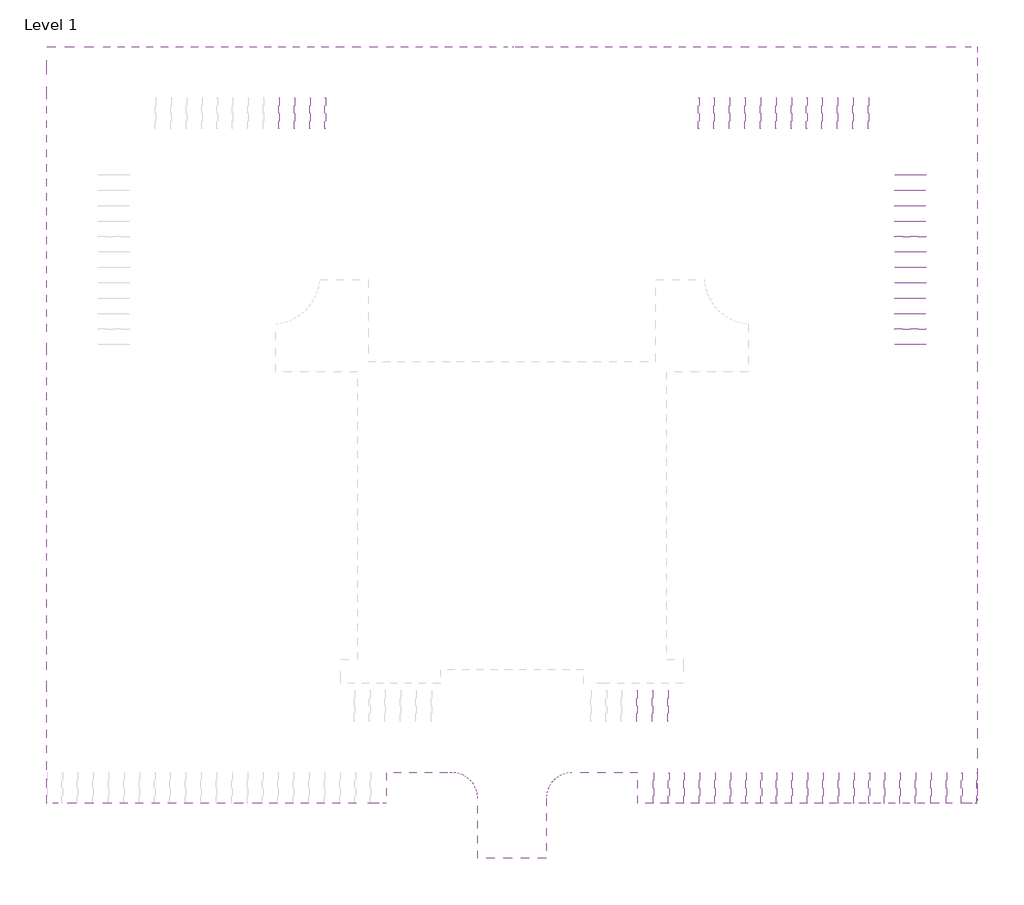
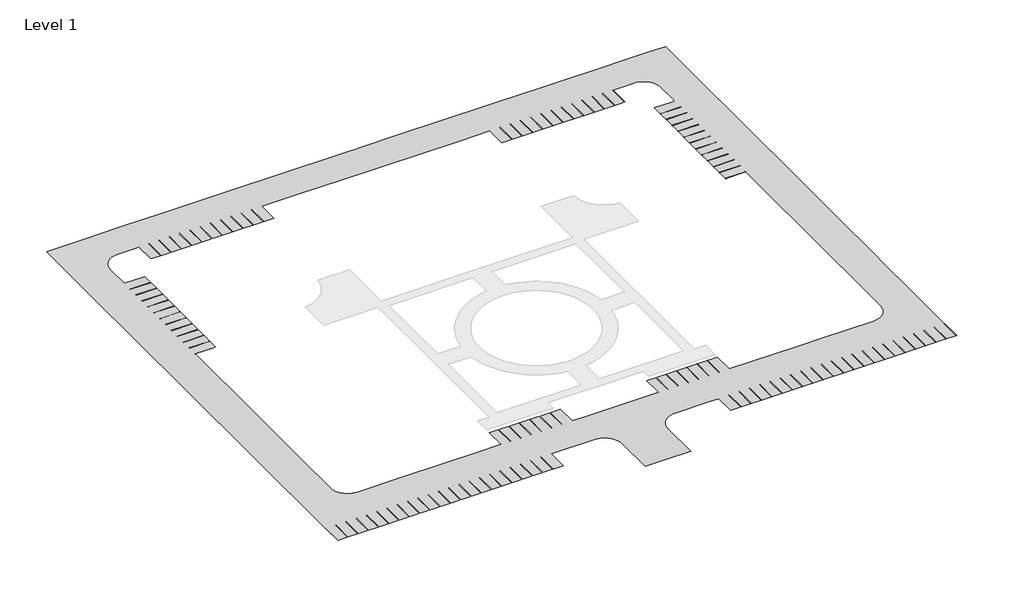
# One storey, part 2 of 2: 54 proxies.
"""IFC4 building model written with IfcOpenShell, lengths in millimetres."""

import ifcopenshell
import ifcopenshell.guid

model = None  # the IFC model being written
_history = None  # IfcOwnerHistory: only IFC2X3 demands one
_inside = {}  # id of a spatial element -> (the spatial element, [elements in it])
_under = {}  # id of a project, library or spatial element -> (it, [spatial elements below it])
_declared = {}  # id of a project -> (the project, [libraries it declares])
_typed = {}  # id of a type object -> (the type object, [elements of that type])
_made_of = {}  # id of a material, layer set ... -> (it, [elements and type objects made of it])


def new_model(schema):
    """Start an empty IFC model of exactly this schema.

    Asked for "IFC4X3", IfcOpenShell would pick the latest addendum, in which some entities
    have other attributes; the version numbers below select the first issue.
    IFC2X3 requires an IfcOwnerHistory on every rooted entity: one is made here for all.
    """
    global model, _history
    if schema == "IFC4X3":
        model = ifcopenshell.file(schema_version=(4, 3, 0, 0))
    else:
        model = ifcopenshell.file(schema=schema)
    _inside.clear()
    _under.clear()
    _declared.clear()
    _typed.clear()
    _made_of.clear()
    _history = None
    if model.schema == "IFC2X3":
        org = make("IfcOrganization", Name="unknown")
        user = make(
            "IfcPersonAndOrganization",
            ThePerson=make("IfcPerson", FamilyName="unknown"),
            TheOrganization=org,
        )
        app = make(
            "IfcApplication",
            ApplicationDeveloper=org,
            Version="unknown",
            ApplicationFullName="unknown",
            ApplicationIdentifier="unknown",
        )
        _history = make(
            "IfcOwnerHistory",
            OwningUser=user,
            OwningApplication=app,
            ChangeAction="ADDED",
            CreationDate=0,
        )
    return model


def make(cls, **values):
    """One entity of the class cls with the attributes given. An attribute that is None is left unset."""
    return model.create_entity(
        cls, **{name: value for name, value in values.items() if value is not None}
    )


def rooted(cls, **values):
    """An entity with a GlobalId (a new one), such as an element, a storey or a relation."""
    return make(cls, GlobalId=ifcopenshell.guid.new(), OwnerHistory=_history, **values)


def si_unit(unit_type, name, prefix=None):
    """IfcSIUnit, for example si_unit("LENGTHUNIT", "METRE", prefix="MILLI")."""
    return make("IfcSIUnit", UnitType=unit_type, Prefix=prefix, Name=name)


def assignment(units):
    """IfcUnitAssignment: the units of a project."""
    return None if units is None else make("IfcUnitAssignment", Units=units)


def point(xyz):
    """IfcCartesianPoint."""
    return None if xyz is None else make("IfcCartesianPoint", Coordinates=xyz)


def direction(xyz):
    """IfcDirection."""
    return None if xyz is None else make("IfcDirection", DirectionRatios=xyz)


def frame(location, z_axis=None, x_axis=None):
    """IfcAxis2Placement3D, a coordinate frame: its origin and axes. An axis left out is left unset."""
    return make(
        "IfcAxis2Placement3D",
        Location=point(location),
        Axis=direction(z_axis),
        RefDirection=direction(x_axis),
    )


def origin():
    """The frame at (0, 0, 0) with its axes left unset."""
    return frame((0.0, 0.0, 0.0))


def origin_with_axes():
    """The frame at (0, 0, 0) with the z axis (0, 0, 1) and the x axis (1, 0, 0) written out."""
    return frame((0.0, 0.0, 0.0), z_axis=(0.0, 0.0, 1.0), x_axis=(1.0, 0.0, 0.0))


def place(relative_to, where):
    """IfcLocalPlacement: puts the frame where relative to a parent placement (None: the world)."""
    return make(
        "IfcLocalPlacement", PlacementRelTo=relative_to, RelativePlacement=where
    )


def context(
    kind, dimensions, precision=None, world=None, true_north=None, identifier=None
):
    """IfcGeometricRepresentationContext, for example the 3D "Model" context."""
    return make(
        "IfcGeometricRepresentationContext",
        ContextIdentifier=identifier,
        ContextType=kind,
        CoordinateSpaceDimension=dimensions,
        Precision=precision,
        WorldCoordinateSystem=world,
        TrueNorth=true_north,
    )


def project(units=None, contexts=None):
    """IfcProject with its units and contexts."""
    return rooted(
        "IfcProject",
        Name="project",
        RepresentationContexts=contexts,
        UnitsInContext=assignment(units),
    )


def spatial(cls, under=None, at=None, **own):
    """A site, building, storey or space (cls), placed at a placement, below another one or the project."""
    s = rooted(cls, ObjectPlacement=at, **own)
    if under is not None:
        _under.setdefault(under.id(), (under, []))[1].append(s)
    return s


def polyline(points):
    """IfcPolyline through the points."""
    return make("IfcPolyline", Points=[point(p) for p in points])


def point_list(points):
    """IfcCartesianPointList2D or 3D."""
    cls = (
        "IfcCartesianPointList2D" if len(points[0]) == 2 else "IfcCartesianPointList3D"
    )
    return make(cls, CoordList=points)


def outline(outer, holes=None, kind="AREA"):
    """IfcArbitraryClosedProfileDef: a profile drawn as a closed curve; with holes, ...WithVoids."""
    if holes is None:
        return make("IfcArbitraryClosedProfileDef", ProfileType=kind, OuterCurve=outer)
    return make(
        "IfcArbitraryProfileDefWithVoids",
        ProfileType=kind,
        OuterCurve=outer,
        InnerCurves=holes,
    )


def extrude(swept, where, along, depth):
    """IfcExtrudedAreaSolid: the profile swept, set in the frame where, extruded along a direction by depth."""
    return make(
        "IfcExtrudedAreaSolid",
        SweptArea=swept,
        Position=where,
        ExtrudedDirection=direction(along),
        Depth=depth,
    )


def triangles(points, corners, closed=None, point_numbers=None):
    """IfcTriangulatedFaceSet: each triangle names its three corners, points numbered from 1."""
    return make(
        "IfcTriangulatedFaceSet",
        Coordinates=point_list(points),
        Closed=closed,
        CoordIndex=corners,
        PnIndex=point_numbers,
    )


def shape(context_of_items, identifier, shape_type, items):
    """IfcShapeRepresentation: the items that make up one representation, for example the "Body"."""
    return make(
        "IfcShapeRepresentation",
        ContextOfItems=context_of_items,
        RepresentationIdentifier=identifier,
        RepresentationType=shape_type,
        Items=items,
    )


def source(mapping_origin, context_of_items, identifier, shape_type, items):
    """IfcRepresentationMap: a shape defined once, which mapped items show again and again."""
    return make(
        "IfcRepresentationMap",
        MappingOrigin=mapping_origin,
        MappedRepresentation=shape(context_of_items, identifier, shape_type, items),
    )


def transform(
    local_origin,
    x_axis=None,
    y_axis=None,
    z_axis=None,
    scale=None,
    scale2=None,
    scale3=None,
    uniform=True,
):
    """IfcCartesianTransformationOperator3D, or its non-uniform kind. x_axis, y_axis, z_axis: its Axis1, 2, 3."""
    if uniform:
        return make(
            "IfcCartesianTransformationOperator3D",
            Axis1=direction(x_axis),
            Axis2=direction(y_axis),
            LocalOrigin=point(local_origin),
            Scale=scale,
            Axis3=direction(z_axis),
        )
    return make(
        "IfcCartesianTransformationOperator3DnonUniform",
        Axis1=direction(x_axis),
        Axis2=direction(y_axis),
        LocalOrigin=point(local_origin),
        Scale=scale,
        Axis3=direction(z_axis),
        Scale2=scale2,
        Scale3=scale3,
    )


def mapped(mapping_source, mapping_target):
    """IfcMappedItem: shows the shape of a source again, moved by a transform."""
    return make(
        "IfcMappedItem", MappingSource=mapping_source, MappingTarget=mapping_target
    )


def made_of(thing, what):
    """Note that an element or type object is made of a material, layer set ...; save() writes the relation."""
    if what is not None:
        _made_of.setdefault(what.id(), (what, []))[1].append(thing)
    return thing


def element(
    cls,
    number,
    at=None,
    inside=None,
    cuts=None,
    type_object=None,
    material=None,
    context=None,
    identifier="Body",
    shape_type=None,
    held_by="IfcProductDefinitionShape",
    body=None,
    shapes=None,
    **own,
):
    """One element of the class cls, such as IfcWall. Its Tag is "e" and its number.

    at: its placement. inside: the storey or other place that contains it. cuts: it is an
    opening in that element (IfcRelVoidsElement). A single representation is given by context,
    identifier, shape_type and body (its items); several are given by shapes. held_by: the class
    of the entity that holds the representations. save() writes the other relations.
    """
    e = rooted(cls, Tag="e%d" % number, ObjectPlacement=at, **own)
    if body is not None:
        shapes = [shape(context, identifier, shape_type, body)]
    if shapes is not None:
        e.Representation = make(held_by, Representations=shapes)
    if inside is not None:
        _inside.setdefault(inside.id(), (inside, []))[1].append(e)
    if cuts is not None:
        rooted(
            "IfcRelVoidsElement", RelatingBuildingElement=cuts, RelatedOpeningElement=e
        )
    if type_object is not None:
        _typed.setdefault(type_object.id(), (type_object, []))[1].append(e)
    return made_of(e, material)


def aggregate(whole, parts):
    """IfcRelAggregates: a whole, such as a stair, and the parts it consists of."""
    return rooted("IfcRelAggregates", RelatingObject=whole, RelatedObjects=parts)


def save(model, path):
    """Write the relations noted so far, then the file.

    IfcRelAggregates (storeys below a building ...), IfcRelContainedInSpatialStructure (elements
    in a storey), IfcRelDefinesByType, IfcRelAssociatesMaterial and IfcRelDeclares: one each for
    every whole, place, type object, material and project.
    """
    for whole, parts in _under.values():
        aggregate(whole, parts)
    for where, things in _inside.values():
        rooted(
            "IfcRelContainedInSpatialStructure",
            RelatedElements=things,
            RelatingStructure=where,
        )
    for kind, things in _typed.values():
        rooted("IfcRelDefinesByType", RelatedObjects=things, RelatingType=kind)
    for what, things in _made_of.values():
        rooted("IfcRelAssociatesMaterial", RelatedObjects=things, RelatingMaterial=what)
    for by, libraries in _declared.values():
        rooted("IfcRelDeclares", RelatingContext=by, RelatedDefinitions=libraries)
    model.write(path)


def parking_space_9_x_18_90_deg_b8b21359(model_context):
    return source(origin(), model_context, "Body", "SweptSolid", [
        extrude(outline(polyline([(-50.8, 0.0), (50.8, 0.0), (50.8, -5486.4), (-50.8, -5486.4), (-50.8, 0.0)])), origin_with_axes(), (0.0, 0.0, 1.0), 3.175),
    ])


def parking_space_9_x_18_90_deg_9fe051ab(model_context):
    return source(origin(), model_context, "Body", "SweptSolid", [
        extrude(outline(polyline([(-50.8, 0.0), (-50.8, 5486.4), (50.8, 5486.4), (50.8, 0.0), (-50.8, 0.0)])), origin_with_axes(), (0.0, 0.0, 1.0), 3.175),
    ])


model = new_model("IFC4")

# Units and contexts
model_context = context("Model", 3, world=origin())
ifc_project = project(units=[si_unit("LENGTHUNIT", "METRE", prefix="MILLI")], contexts=[model_context])

# Site, building, storey
site = spatial("IfcSite", under=ifc_project)
building = spatial("IfcBuilding", under=site)
storey = spatial("IfcBuildingStorey", under=building, Name="Level 1", Elevation=0.0)

# Proxies
placement = place(None, origin())
element("IfcBuildingElementProxy", 1, Name="Building Element Proxy", at=placement, inside=storey, context=model_context, shape_type="Tessellation", body=[
    triangles([(-91565.4156006, -131797.3412842, 3048.0), (-91565.4156006, -142465.3412842, 3048.0), (-85469.4156006, -142465.3412842, 3048.0), (-79373.4156006, -142465.3412842, 3048.0), (-79373.4156006, -131797.3412842, 3048.0), (-79326.8789062, -131146.6833252, 3048.0), (-79188.2176025, -130509.2617676, 3048.0), (-78960.2501221, -129898.0618652, 3048.0), (-78647.6273438, -129325.5293701, 3048.0), (-78256.7023682, -128803.3193848, 3048.0), (-77795.4375, -128342.0545166, 3048.0), (-77273.2275146, -127951.129541, 3048.0), (-76700.6950195, -127638.5067627, 3048.0), (-76089.4951172, -127410.5392822, 3048.0), (-75452.0782104, -127271.8779785, 3048.0), (-74801.4156006, -127225.3412842, 3048.0), (-65737.3967651, -127225.3412842, 3048.0), (-63066.6156006, -127225.3412842, 3048.0), (-63066.6156006, -132711.7412842, 3048.0), (-49700.7337646, -132711.7412842, 3048.0), (-46095.4654541, -132711.7412842, 3048.0), (-25122.6386353, -132711.7412842, 3048.0), (-22487.2901917, -132711.7412842, 3048.0), (-9475.8297455, -132711.7412842, 3048.0), (-7128.3945419, -132711.7412842, 3048.0), (-3627.2861526, -132711.7412842, 3048.0), (-2716.2156006, -132711.7412842, 3048.0), (-2716.2156006, -131800.6713135, 3048.0), (-2716.2156006, -126435.2592773, 3048.0), (-2716.2156006, -119294.9323242, 3048.0), (-2716.2156006, -110282.3754639, 3048.0), (-2716.2156006, -99848.9937012, 3048.0), (-2716.2156006, -93648.8326172, 3048.0), (-2716.2156006, -78679.5509766, 3048.0), (-2716.2156006, -57640.1561279, 3048.0), (-2716.2156006, -54081.5454346, 3048.0), (-2716.2156006, -39230.4751831, 3048.0), (-2716.2156006, -36324.047937, 3048.0), (-2716.2156006, -25463.0759949, 3048.0), (-2716.2156006, -19932.808905, 3048.0), (-2716.2156006, -10713.0914337, 3048.0), (-2716.2156006, -5698.3579926, 3048.0), (-2716.2156006, -6.8326078, 3048.0), (-2716.2156006, 2009.8571171, 3048.0), (-4876.9546417, 2009.8571171, 3048.0), (-8244.3299149, 2009.8571171, 3048.0), (-15439.1645874, 2009.8571171, 3048.0), (-18502.3066864, 2009.8571171, 3048.0), (-32722.1166321, 2009.8571171, 3048.0), (-35482.0690979, 2009.8571171, 3048.0), (-47895.234668, 2009.8571171, 3048.0), (-50617.2778198, 2009.8571171, 3048.0), (-74135.7353027, 2009.8571171, 3048.0), (-84851.657959, 2009.8571171, 3048.0), (-85469.4156006, 2009.8571171, 3048.0), (-86925.494165, 2009.8571171, 3048.0), (-107854.532959, 2009.8571171, 3048.0), (-116835.2592041, 2009.8571171, 3048.0), (-137219.4568359, 2009.8571171, 3048.0), (-147975.5258789, 2009.8571171, 3048.0), (-158167.5177246, 2009.8571171, 3048.0), (-165023.8620117, 2009.8571171, 3048.0), (-168222.6249023, 2009.8571171, 3048.0), (-168222.6249023, -2878.799572, 3048.0), (-168222.6249023, -7335.4644608, 3048.0), (-168222.6249023, -9881.2910431, 3048.0), (-168222.6249023, -48677.8473633, 3048.0), (-168222.6249023, -52893.4737671, 3048.0), (-168222.6249023, -68873.2053589, 3048.0), (-168222.6249023, -87023.6556152, 3048.0), (-168222.6249023, -89478.501123, 3048.0), (-168222.6249023, -108944.6152588, 3048.0), (-168222.6249023, -112839.3542725, 3048.0), (-168222.6249023, -123715.5183105, 3048.0), (-168222.6249023, -129803.4071777, 3048.0), (-168222.6249023, -132711.7412842, 3048.0), (-166169.6711426, -132711.7412842, 3048.0), (-156686.287207, -132711.7412842, 3048.0), (-151031.4230713, -132711.7412842, 3048.0), (-136471.2234375, -132711.7412842, 3048.0), (-130021.8217529, -132711.7412842, 3048.0), (-113205.545874, -132711.7412842, 3048.0), (-109055.1945557, -132711.7412842, 3048.0), (-107872.2156006, -132711.7412842, 3048.0), (-107872.2156006, -127225.3412842, 3048.0), (-96917.0331299, -127225.3412842, 3048.0), (-96137.4156006, -127225.3412842, 3048.0), (-95486.7483398, -127271.8779785, 3048.0), (-94849.336084, -127410.5392822, 3048.0), (-94238.1361816, -127638.5067627, 3048.0), (-94085.0943604, -127722.0737549, 3048.0), (-93665.6036865, -127951.129541, 3048.0), (-93143.3937012, -128342.0545166, 3048.0), (-92682.128833, -128803.3193848, 3048.0), (-92291.2038574, -129325.5293701, 3048.0), (-91978.5810791, -129898.0618652, 3048.0), (-91750.6135986, -130509.2617676, 3048.0), (-91611.9522949, -131146.6833252, 3048.0), (-115949.4156006, -7134.1430283, 3048.0), (-107080.6546143, -7134.1430283, 3048.0), (-87430.1331299, -7134.1430283, 3048.0), (-83499.2288818, -7134.1430283, 3048.0), (-63187.5384521, -7134.1430283, 3048.0), (-54989.4156006, -7134.1430283, 3048.0), (-54989.4156006, -12620.5424469, 3048.0), (-38123.177655, -12620.5424469, 3048.0), (-31867.5478638, -12620.5424469, 3048.0), (-22976.7533386, -12620.5424469, 3048.0), (-22071.0156006, -12620.5424469, 3048.0), (-22071.0156006, -7742.123941, 3048.0), (-22071.0156006, -7134.1430283, 3048.0), (-16432.2156006, -7134.1430283, 3048.0), (-15781.551828, -7180.6791412, 3048.0), (-15144.1349213, -7319.3410263, 3048.0), (-14532.9385071, -7547.3056, 3048.0), (-13960.406012, -7859.9318665, 3048.0), (-13438.1925385, -8250.8556793, 3048.0), (-12976.928833, -8712.1193848, 3048.0), (-12586.0050201, -9234.3328583, 3048.0), (-12273.3787537, -9806.8653534, 3048.0), (-12045.4135986, -10418.0617676, 3048.0), (-11906.7522949, -11055.479837, 3048.0), (-11860.2156006, -11706.1424469, 3048.0), (-11860.2156006, -17090.9730652, 3048.0), (-11860.2156006, -18106.9424469, 3048.0), (-17346.6156006, -18106.9424469, 3048.0), (-17346.6156006, -19207.4369019, 3048.0), (-17346.6156006, -25875.546167, 3048.0), (-17346.6156006, -36949.5725464, 3048.0), (-17346.6156006, -45420.7578003, 3048.0), (-17346.6156006, -51025.3412842, 3048.0), (-11860.2156006, -51025.3412842, 3048.0), (-11860.2156006, -89195.1509766, 3048.0), (-11860.2156006, -101882.9811768, 3048.0), (-11860.2156006, -113260.1937012, 3048.0), (-11860.2156006, -113509.3412842, 3048.0), (-11906.7522949, -114160.0085449, 3048.0), (-12045.4135986, -114797.4208008, 3048.0), (-12273.3787537, -115408.6207031, 3048.0), (-12586.0050201, -115981.1531982, 3048.0), (-12976.928833, -116503.3631836, 3048.0), (-13438.1925385, -116964.6280518, 3048.0), (-13960.406012, -117355.5530273, 3048.0), (-14532.9385071, -117668.1758057, 3048.0), (-14979.1333649, -117834.6028564, 3048.0), (-15144.1349213, -117896.1432861, 3048.0), (-15781.551828, -118034.8045898, 3048.0), (-16432.2156006, -118081.3412842, 3048.0), (-29848.4478516, -118081.3412842, 3048.0), (-36978.6451904, -118081.3412842, 3048.0), (-54989.4156006, -118081.3412842, 3048.0), (-54989.4156006, -112594.9412842, 3048.0), (-67901.2786377, -112594.9412842, 3048.0), (-73887.0156006, -112594.9412842, 3048.0), (-73887.0156006, -118081.3412842, 3048.0), (-85469.4156006, -118081.3412842, 3048.0), (-93553.0431152, -118081.3412842, 3048.0), (-97051.8156006, -118081.3412842, 3048.0), (-97051.8156006, -112594.9412842, 3048.0), (-98155.2459229, -112594.9412842, 3048.0), (-115949.4156006, -112594.9412842, 3048.0), (-115949.4156006, -118081.3412842, 3048.0), (-122615.0738525, -118081.3412842, 3048.0), (-130823.3077148, -118081.3412842, 3048.0), (-142949.2094238, -118081.3412842, 3048.0), (-154506.6156006, -118081.3412842, 3048.0), (-155157.2828613, -118034.8045898, 3048.0), (-155794.6951172, -117896.1432861, 3048.0), (-156405.8950195, -117668.1758057, 3048.0), (-156978.4182129, -117355.5530273, 3048.0), (-157500.6375, -116964.6280518, 3048.0), (-157961.9116699, -116503.3631836, 3048.0), (-158352.8273438, -115981.1531982, 3048.0), (-158665.4594238, -115408.6207031, 3048.0), (-158893.4083008, -114797.4208008, 3048.0), (-159032.0789063, -114160.0085449, 3048.0), (-159078.6249023, -113509.3412842, 3048.0), (-159078.6249023, -99827.106665, 3048.0), (-159078.6249023, -94617.1456055, 3048.0), (-159078.6249023, -78739.1008301, 3048.0), (-159078.6249023, -51025.3412842, 3048.0), (-153592.2156006, -51025.3412842, 3048.0), (-153592.2156006, -37262.048822, 3048.0), (-153592.2156006, -24758.3027344, 3048.0), (-153592.2156006, -18106.9424469, 3048.0), (-159078.6249023, -18106.9424469, 3048.0), (-159078.6249023, -11706.1424469, 3048.0), (-159032.0789063, -11055.479837, 3048.0), (-158893.4083008, -10418.0617676, 3048.0), (-158665.4594238, -9806.8653534, 3048.0), (-158352.8273438, -9234.3328583, 3048.0), (-157961.9116699, -8712.1193848, 3048.0), (-157500.6375, -8250.8556793, 3048.0), (-156978.4182129, -7859.9318665, 3048.0), (-156405.8950195, -7547.3056, 3048.0), (-155794.6951172, -7319.3410263, 3048.0), (-155157.2828613, -7180.6791412, 3048.0), (-154506.6156006, -7134.1430283, 3048.0), (-148867.8156006, -7134.1430283, 3048.0), (-148867.8156006, -12620.5424469, 3048.0), (-146168.1478271, -12620.5424469, 3048.0), (-130528.7396484, -12620.5424469, 3048.0), (-115949.4156006, -12620.5424469, 3048.0)], [[75, 76, 77], [75, 77, 78], [78, 74, 75], [169, 74, 78], [167, 78, 166], [78, 79, 166], [165, 79, 80], [164, 80, 81], [164, 165, 80], [163, 164, 81], [163, 82, 162], [79, 165, 166], [174, 175, 73], [174, 73, 74], [73, 176, 177], [176, 73, 175], [72, 73, 177], [74, 173, 174], [167, 168, 78], [173, 74, 172], [171, 74, 170], [74, 171, 172], [168, 169, 78], [74, 169, 170], [163, 81, 82], [85, 83, 84], [85, 82, 83], [9, 156, 95], [156, 94, 95], [1, 2, 3], [5, 3, 4], [1, 3, 5], [6, 98, 1], [7, 97, 98], [97, 8, 96], [95, 96, 9], [85, 86, 158], [162, 160, 161], [158, 86, 87], [158, 87, 88], [158, 160, 162], [88, 157, 158], [162, 85, 158], [92, 93, 157], [91, 92, 157], [89, 90, 157], [157, 90, 91], [93, 156, 157], [89, 157, 88], [93, 94, 156], [85, 162, 82], [71, 72, 178], [70, 71, 179], [68, 69, 181], [67, 68, 181], [70, 180, 69], [179, 180, 70], [69, 180, 181], [67, 186, 66], [186, 67, 183], [183, 67, 181], [178, 179, 71], [177, 178, 72], [66, 186, 187], [189, 65, 66], [188, 66, 187], [64, 65, 192], [63, 64, 62], [193, 62, 64], [188, 189, 66], [192, 65, 191], [191, 65, 190], [62, 193, 61], [64, 192, 193], [193, 194, 61], [61, 194, 195], [190, 65, 189], [186, 184, 185], [198, 61, 197], [197, 61, 196], [186, 183, 184], [159, 160, 158], [59, 201, 202], [199, 200, 201], [181, 182, 183], [99, 202, 203], [99, 58, 202], [201, 59, 199], [198, 199, 60], [59, 60, 199], [59, 202, 58], [99, 57, 58], [60, 61, 198], [56, 100, 101], [55, 101, 102], [56, 57, 100], [54, 55, 102], [56, 101, 55], [102, 53, 54], [100, 57, 99], [196, 61, 195], [6, 1, 5], [97, 7, 8], [156, 10, 11], [10, 156, 9], [9, 96, 8], [20, 18, 19], [21, 151, 20], [13, 156, 12], [21, 22, 150], [12, 156, 11], [14, 15, 155], [13, 14, 155], [155, 16, 17], [154, 155, 153], [155, 15, 16], [156, 13, 155], [153, 17, 18], [150, 22, 149], [21, 150, 151], [152, 153, 151], [151, 18, 20], [153, 18, 151], [17, 153, 155], [22, 23, 149], [148, 24, 147], [146, 147, 24], [24, 145, 146], [24, 144, 145], [148, 23, 24], [28, 25, 26], [28, 26, 27], [29, 144, 24], [143, 144, 29], [29, 24, 25], [25, 28, 29], [142, 29, 30], [143, 29, 142], [142, 30, 141], [140, 30, 139], [139, 30, 138], [30, 140, 141], [136, 137, 31], [135, 136, 31], [33, 134, 32], [31, 32, 134], [134, 135, 31], [138, 30, 137], [137, 30, 31], [148, 149, 23], [134, 33, 133], [50, 106, 107], [104, 105, 106], [108, 109, 110], [108, 110, 107], [110, 111, 107], [128, 129, 38], [125, 127, 128], [127, 125, 126], [37, 129, 130], [52, 53, 103], [52, 103, 104], [51, 52, 104], [51, 104, 106], [50, 51, 106], [107, 111, 49], [113, 114, 47], [49, 111, 48], [112, 47, 48], [47, 112, 113], [111, 112, 48], [114, 115, 47], [49, 50, 107], [130, 131, 132], [53, 102, 103], [39, 128, 38], [124, 125, 40], [130, 132, 37], [124, 41, 123], [41, 122, 123], [132, 34, 35], [35, 36, 132], [38, 129, 37], [39, 40, 125], [39, 125, 128], [36, 37, 132], [133, 33, 34], [40, 41, 124], [119, 120, 42], [118, 119, 42], [116, 117, 46], [115, 116, 46], [118, 46, 117], [41, 42, 120], [41, 121, 122], [42, 46, 118], [45, 46, 43], [43, 44, 45], [46, 42, 43], [120, 121, 41], [115, 46, 47], [133, 34, 132], [7, 98, 6]], closed=False),
])
parking_space_9_x_18_90_deg_shape = parking_space_9_x_18_90_deg_b8b21359(model_context)
element("IfcBuildingElementProxy", 2, Name="Parking Space : 9' x 18' - 90 deg", ObjectType="Parking Space : 9' x 18' - 90 deg", at=placement, inside=storey, context=model_context, shape_type="MappedRepresentation", body=[
    mapped(parking_space_9_x_18_90_deg_shape, transform((-118692.6156636, -7119.2950703, 3048.7803686), x_axis=(1.0, 0.0, 0.0), y_axis=(0.0, 1.0, 0.0), z_axis=(0.0, 0.0, 1.0))),
])
element("IfcBuildingElementProxy", 3, Name="Parking Space : 9' x 18' - 90 deg", ObjectType="Parking Space : 9' x 18' - 90 deg", at=placement, inside=storey, context=model_context, shape_type="MappedRepresentation", body=[
    mapped(parking_space_9_x_18_90_deg_shape, transform((-121435.8156636, -7119.2950703, 3048.7803686), x_axis=(1.0, 0.0, 0.0), y_axis=(0.0, 1.0, 0.0), z_axis=(0.0, 0.0, 1.0))),
])
element("IfcBuildingElementProxy", 4, Name="Parking Space : 9' x 18' - 90 deg", ObjectType="Parking Space : 9' x 18' - 90 deg", at=placement, inside=storey, context=model_context, shape_type="MappedRepresentation", body=[
    mapped(parking_space_9_x_18_90_deg_shape, transform((-124179.0156636, -7119.2950703, 3048.7803686), x_axis=(1.0, 0.0, 0.0), y_axis=(0.0, 1.0, 0.0), z_axis=(0.0, 0.0, 1.0))),
])
element("IfcBuildingElementProxy", 5, Name="Parking Space : 9' x 18' - 90 deg", ObjectType="Parking Space : 9' x 18' - 90 deg", at=placement, inside=storey, context=model_context, shape_type="MappedRepresentation", body=[
    mapped(parking_space_9_x_18_90_deg_shape, transform((-126922.2156636, -7119.2950703, 3048.7803686), x_axis=(1.0, 0.0, 0.0), y_axis=(0.0, 1.0, 0.0), z_axis=(0.0, 0.0, 1.0))),
])
element("IfcBuildingElementProxy", 6, Name="Parking Space : 9' x 18' - 90 deg", ObjectType="Parking Space : 9' x 18' - 90 deg", at=placement, inside=storey, context=model_context, shape_type="MappedRepresentation", body=[
    mapped(parking_space_9_x_18_90_deg_shape, transform((-57732.6156636, -112594.9428359, 3048.7803686), x_axis=(1.0, 0.0, 0.0), y_axis=(0.0, 1.0, 0.0), z_axis=(0.0, 0.0, 1.0))),
])
element("IfcBuildingElementProxy", 7, Name="Parking Space : 9' x 18' - 90 deg", ObjectType="Parking Space : 9' x 18' - 90 deg", at=placement, inside=storey, context=model_context, shape_type="MappedRepresentation", body=[
    mapped(parking_space_9_x_18_90_deg_shape, transform((-60475.8156636, -112594.9428359, 3048.7803686), x_axis=(1.0, 0.0, 0.0), y_axis=(0.0, 1.0, 0.0), z_axis=(0.0, 0.0, 1.0))),
])
element("IfcBuildingElementProxy", 8, Name="Parking Space : 9' x 18' - 90 deg", ObjectType="Parking Space : 9' x 18' - 90 deg", at=placement, inside=storey, context=model_context, shape_type="MappedRepresentation", body=[
    mapped(parking_space_9_x_18_90_deg_shape, transform((-63219.0156636, -112594.9428359, 3048.7803686), x_axis=(1.0, 0.0, 0.0), y_axis=(0.0, 1.0, 0.0), z_axis=(0.0, 0.0, 1.0))),
])
parking_space_9_x_18_90_deg_2_shape = parking_space_9_x_18_90_deg_9fe051ab(model_context)
element("IfcBuildingElementProxy", 9, Name="Parking Space : 9' x 18' - 90 deg", ObjectType="Parking Space : 9' x 18' - 90 deg", at=placement, inside=storey, context=model_context, shape_type="MappedRepresentation", body=[
    mapped(parking_space_9_x_18_90_deg_2_shape, transform((-60333.7275498, -127225.3428359, 3048.7803686), x_axis=(-1.0, 0.0, 0.0), y_axis=(0.0, -1.0, 0.0), z_axis=(0.0, 0.0, 1.0))),
])
element("IfcBuildingElementProxy", 10, Name="Parking Space : 9' x 18' - 90 deg", ObjectType="Parking Space : 9' x 18' - 90 deg", at=placement, inside=storey, context=model_context, shape_type="MappedRepresentation", body=[
    mapped(parking_space_9_x_18_90_deg_2_shape, transform((-57590.5275498, -127225.3428359, 3048.7803686), x_axis=(-1.0, 0.0, 0.0), y_axis=(0.0, -1.0, 0.0), z_axis=(0.0, 0.0, 1.0))),
])
element("IfcBuildingElementProxy", 11, Name="Parking Space : 9' x 18' - 90 deg", ObjectType="Parking Space : 9' x 18' - 90 deg", at=placement, inside=storey, context=model_context, shape_type="MappedRepresentation", body=[
    mapped(parking_space_9_x_18_90_deg_2_shape, transform((-54847.3275498, -127225.3428359, 3048.7803686), x_axis=(-1.0, 0.0, 0.0), y_axis=(0.0, -1.0, 0.0), z_axis=(0.0, 0.0, 1.0))),
])
element("IfcBuildingElementProxy", 12, Name="Parking Space : 9' x 18' - 90 deg", ObjectType="Parking Space : 9' x 18' - 90 deg", at=placement, inside=storey, context=model_context, shape_type="MappedRepresentation", body=[
    mapped(parking_space_9_x_18_90_deg_2_shape, transform((-52104.1275498, -127225.3428359, 3048.7803686), x_axis=(-1.0, 0.0, 0.0), y_axis=(0.0, -1.0, 0.0), z_axis=(0.0, 0.0, 1.0))),
])
element("IfcBuildingElementProxy", 13, Name="Parking Space : 9' x 18' - 90 deg", ObjectType="Parking Space : 9' x 18' - 90 deg", at=placement, inside=storey, context=model_context, shape_type="MappedRepresentation", body=[
    mapped(parking_space_9_x_18_90_deg_2_shape, transform((-49360.9275498, -127225.3428359, 3048.7803686), x_axis=(-1.0, 0.0, 0.0), y_axis=(0.0, -1.0, 0.0), z_axis=(0.0, 0.0, 1.0))),
])
element("IfcBuildingElementProxy", 14, Name="Parking Space : 9' x 18' - 90 deg", ObjectType="Parking Space : 9' x 18' - 90 deg", at=placement, inside=storey, context=model_context, shape_type="MappedRepresentation", body=[
    mapped(parking_space_9_x_18_90_deg_2_shape, transform((-46617.7275498, -127225.3428359, 3048.7803686), x_axis=(-1.0, 0.0, 0.0), y_axis=(0.0, -1.0, 0.0), z_axis=(0.0, 0.0, 1.0))),
])
element("IfcBuildingElementProxy", 15, Name="Parking Space : 9' x 18' - 90 deg", ObjectType="Parking Space : 9' x 18' - 90 deg", at=placement, inside=storey, context=model_context, shape_type="MappedRepresentation", body=[
    mapped(parking_space_9_x_18_90_deg_2_shape, transform((-43874.5275498, -127225.3428359, 3048.7803686), x_axis=(-1.0, 0.0, 0.0), y_axis=(0.0, -1.0, 0.0), z_axis=(0.0, 0.0, 1.0))),
])
element("IfcBuildingElementProxy", 16, Name="Parking Space : 9' x 18' - 90 deg", ObjectType="Parking Space : 9' x 18' - 90 deg", at=placement, inside=storey, context=model_context, shape_type="MappedRepresentation", body=[
    mapped(parking_space_9_x_18_90_deg_2_shape, transform((-41131.3275498, -127225.3428359, 3048.7803686), x_axis=(-1.0, 0.0, 0.0), y_axis=(0.0, -1.0, 0.0), z_axis=(0.0, 0.0, 1.0))),
])
element("IfcBuildingElementProxy", 17, Name="Parking Space : 9' x 18' - 90 deg", ObjectType="Parking Space : 9' x 18' - 90 deg", at=placement, inside=storey, context=model_context, shape_type="MappedRepresentation", body=[
    mapped(parking_space_9_x_18_90_deg_2_shape, transform((-38388.1275498, -127225.3428359, 3048.7803686), x_axis=(-1.0, 0.0, 0.0), y_axis=(0.0, -1.0, 0.0), z_axis=(0.0, 0.0, 1.0))),
])
element("IfcBuildingElementProxy", 18, Name="Parking Space : 9' x 18' - 90 deg", ObjectType="Parking Space : 9' x 18' - 90 deg", at=placement, inside=storey, context=model_context, shape_type="MappedRepresentation", body=[
    mapped(parking_space_9_x_18_90_deg_2_shape, transform((-35644.9275498, -127225.3428359, 3048.7803686), x_axis=(-1.0, 0.0, 0.0), y_axis=(0.0, -1.0, 0.0), z_axis=(0.0, 0.0, 1.0))),
])
element("IfcBuildingElementProxy", 19, Name="Parking Space : 9' x 18' - 90 deg", ObjectType="Parking Space : 9' x 18' - 90 deg", at=placement, inside=storey, context=model_context, shape_type="MappedRepresentation", body=[
    mapped(parking_space_9_x_18_90_deg_2_shape, transform((-32901.7275498, -127225.3428359, 3048.7803686), x_axis=(-1.0, 0.0, 0.0), y_axis=(0.0, -1.0, 0.0), z_axis=(0.0, 0.0, 1.0))),
])
element("IfcBuildingElementProxy", 20, Name="Parking Space : 9' x 18' - 90 deg", ObjectType="Parking Space : 9' x 18' - 90 deg", at=placement, inside=storey, context=model_context, shape_type="MappedRepresentation", body=[
    mapped(parking_space_9_x_18_90_deg_2_shape, transform((-30158.5275498, -127225.3428359, 3048.7803686), x_axis=(-1.0, 0.0, 0.0), y_axis=(0.0, -1.0, 0.0), z_axis=(0.0, 0.0, 1.0))),
])
element("IfcBuildingElementProxy", 21, Name="Parking Space : 9' x 18' - 90 deg", ObjectType="Parking Space : 9' x 18' - 90 deg", at=placement, inside=storey, context=model_context, shape_type="MappedRepresentation", body=[
    mapped(parking_space_9_x_18_90_deg_2_shape, transform((-27415.3275498, -127225.3428359, 3048.7803686), x_axis=(-1.0, 0.0, 0.0), y_axis=(0.0, -1.0, 0.0), z_axis=(0.0, 0.0, 1.0))),
])
element("IfcBuildingElementProxy", 22, Name="Parking Space : 9' x 18' - 90 deg", ObjectType="Parking Space : 9' x 18' - 90 deg", at=placement, inside=storey, context=model_context, shape_type="MappedRepresentation", body=[
    mapped(parking_space_9_x_18_90_deg_2_shape, transform((-24672.1275498, -127225.3428359, 3048.7803686), x_axis=(-1.0, 0.0, 0.0), y_axis=(0.0, -1.0, 0.0), z_axis=(0.0, 0.0, 1.0))),
])
element("IfcBuildingElementProxy", 23, Name="Parking Space : 9' x 18' - 90 deg", ObjectType="Parking Space : 9' x 18' - 90 deg", at=placement, inside=storey, context=model_context, shape_type="MappedRepresentation", body=[
    mapped(parking_space_9_x_18_90_deg_2_shape, transform((-21928.9275498, -127225.3428359, 3048.7803686), x_axis=(-1.0, 0.0, 0.0), y_axis=(0.0, -1.0, 0.0), z_axis=(0.0, 0.0, 1.0))),
])
element("IfcBuildingElementProxy", 24, Name="Parking Space : 9' x 18' - 90 deg", ObjectType="Parking Space : 9' x 18' - 90 deg", at=placement, inside=storey, context=model_context, shape_type="MappedRepresentation", body=[
    mapped(parking_space_9_x_18_90_deg_2_shape, transform((-19185.7275498, -127225.3428359, 3048.7803686), x_axis=(-1.0, 0.0, 0.0), y_axis=(0.0, -1.0, 0.0), z_axis=(0.0, 0.0, 1.0))),
])
element("IfcBuildingElementProxy", 25, Name="Parking Space : 9' x 18' - 90 deg", ObjectType="Parking Space : 9' x 18' - 90 deg", at=placement, inside=storey, context=model_context, shape_type="MappedRepresentation", body=[
    mapped(parking_space_9_x_18_90_deg_2_shape, transform((-16442.5275498, -127225.3428359, 3048.7803686), x_axis=(-1.0, 0.0, 0.0), y_axis=(0.0, -1.0, 0.0), z_axis=(0.0, 0.0, 1.0))),
])
element("IfcBuildingElementProxy", 26, Name="Parking Space : 9' x 18' - 90 deg", ObjectType="Parking Space : 9' x 18' - 90 deg", at=placement, inside=storey, context=model_context, shape_type="MappedRepresentation", body=[
    mapped(parking_space_9_x_18_90_deg_2_shape, transform((-13699.3275498, -127225.3428359, 3048.7803686), x_axis=(-1.0, 0.0, 0.0), y_axis=(0.0, -1.0, 0.0), z_axis=(0.0, 0.0, 1.0))),
])
element("IfcBuildingElementProxy", 27, Name="Parking Space : 9' x 18' - 90 deg", ObjectType="Parking Space : 9' x 18' - 90 deg", at=placement, inside=storey, context=model_context, shape_type="MappedRepresentation", body=[
    mapped(parking_space_9_x_18_90_deg_2_shape, transform((-10956.1275498, -127225.3428359, 3048.7803686), x_axis=(-1.0, 0.0, 0.0), y_axis=(0.0, -1.0, 0.0), z_axis=(0.0, 0.0, 1.0))),
])
element("IfcBuildingElementProxy", 28, Name="Parking Space : 9' x 18' - 90 deg", ObjectType="Parking Space : 9' x 18' - 90 deg", at=placement, inside=storey, context=model_context, shape_type="MappedRepresentation", body=[
    mapped(parking_space_9_x_18_90_deg_2_shape, transform((-8212.9275498, -127225.3428359, 3048.7803686), x_axis=(-1.0, 0.0, 0.0), y_axis=(0.0, -1.0, 0.0), z_axis=(0.0, 0.0, 1.0))),
])
element("IfcBuildingElementProxy", 29, Name="Parking Space : 9' x 18' - 90 deg", ObjectType="Parking Space : 9' x 18' - 90 deg", at=placement, inside=storey, context=model_context, shape_type="MappedRepresentation", body=[
    mapped(parking_space_9_x_18_90_deg_2_shape, transform((-5469.7275498, -127225.3428359, 3048.7803686), x_axis=(-1.0, 0.0, 0.0), y_axis=(0.0, -1.0, 0.0), z_axis=(0.0, 0.0, 1.0))),
])
element("IfcBuildingElementProxy", 30, Name="Parking Space : 9' x 18' - 90 deg", ObjectType="Parking Space : 9' x 18' - 90 deg", at=placement, inside=storey, context=model_context, shape_type="MappedRepresentation", body=[
    mapped(parking_space_9_x_18_90_deg_2_shape, transform((-2726.5275498, -127225.3428359, 3048.7803686), x_axis=(-1.0, 0.0, 0.0), y_axis=(0.0, -1.0, 0.0), z_axis=(0.0, 0.0, 1.0))),
])
element("IfcBuildingElementProxy", 31, Name="Parking Space : 9' x 18' - 90 deg", ObjectType="Parking Space : 9' x 18' - 90 deg", at=placement, inside=storey, context=model_context, shape_type="MappedRepresentation", body=[
    mapped(parking_space_9_x_18_90_deg_2_shape, transform((-11860.2156636, -51025.3428359, 3048.7803686), x_axis=(0.0, 1.0, 0.0), y_axis=(-1.0, 0.0, 0.0), z_axis=(0.0, 0.0, 1.0))),
])
element("IfcBuildingElementProxy", 32, Name="Parking Space : 9' x 18' - 90 deg", ObjectType="Parking Space : 9' x 18' - 90 deg", at=placement, inside=storey, context=model_context, shape_type="MappedRepresentation", body=[
    mapped(parking_space_9_x_18_90_deg_2_shape, transform((-11860.2156636, -48282.1428359, 3048.7803686), x_axis=(0.0, 1.0, 0.0), y_axis=(-1.0, 0.0, 0.0), z_axis=(0.0, 0.0, 1.0))),
])
element("IfcBuildingElementProxy", 33, Name="Parking Space : 9' x 18' - 90 deg", ObjectType="Parking Space : 9' x 18' - 90 deg", at=placement, inside=storey, context=model_context, shape_type="MappedRepresentation", body=[
    mapped(parking_space_9_x_18_90_deg_2_shape, transform((-11860.2156636, -45538.9428359, 3048.7803686), x_axis=(0.0, 1.0, 0.0), y_axis=(-1.0, 0.0, 0.0), z_axis=(0.0, 0.0, 1.0))),
])
element("IfcBuildingElementProxy", 34, Name="Parking Space : 9' x 18' - 90 deg", ObjectType="Parking Space : 9' x 18' - 90 deg", at=placement, inside=storey, context=model_context, shape_type="MappedRepresentation", body=[
    mapped(parking_space_9_x_18_90_deg_2_shape, transform((-11860.2156636, -42795.7428359, 3048.7803686), x_axis=(0.0, 1.0, 0.0), y_axis=(-1.0, 0.0, 0.0), z_axis=(0.0, 0.0, 1.0))),
])
element("IfcBuildingElementProxy", 35, Name="Parking Space : 9' x 18' - 90 deg", ObjectType="Parking Space : 9' x 18' - 90 deg", at=placement, inside=storey, context=model_context, shape_type="MappedRepresentation", body=[
    mapped(parking_space_9_x_18_90_deg_2_shape, transform((-11860.2156636, -40052.5428359, 3048.7803686), x_axis=(0.0, 1.0, 0.0), y_axis=(-1.0, 0.0, 0.0), z_axis=(0.0, 0.0, 1.0))),
])
element("IfcBuildingElementProxy", 36, Name="Parking Space : 9' x 18' - 90 deg", ObjectType="Parking Space : 9' x 18' - 90 deg", at=placement, inside=storey, context=model_context, shape_type="MappedRepresentation", body=[
    mapped(parking_space_9_x_18_90_deg_2_shape, transform((-11860.2156636, -37309.3428359, 3048.7803686), x_axis=(0.0, 1.0, 0.0), y_axis=(-1.0, 0.0, 0.0), z_axis=(0.0, 0.0, 1.0))),
])
element("IfcBuildingElementProxy", 37, Name="Parking Space : 9' x 18' - 90 deg", ObjectType="Parking Space : 9' x 18' - 90 deg", at=placement, inside=storey, context=model_context, shape_type="MappedRepresentation", body=[
    mapped(parking_space_9_x_18_90_deg_2_shape, transform((-11860.2156636, -34566.1428359, 3048.7803686), x_axis=(0.0, 1.0, 0.0), y_axis=(-1.0, 0.0, 0.0), z_axis=(0.0, 0.0, 1.0))),
])
element("IfcBuildingElementProxy", 38, Name="Parking Space : 9' x 18' - 90 deg", ObjectType="Parking Space : 9' x 18' - 90 deg", at=placement, inside=storey, context=model_context, shape_type="MappedRepresentation", body=[
    mapped(parking_space_9_x_18_90_deg_2_shape, transform((-11860.2156636, -31822.9428359, 3048.7803686), x_axis=(0.0, 1.0, 0.0), y_axis=(-1.0, 0.0, 0.0), z_axis=(0.0, 0.0, 1.0))),
])
element("IfcBuildingElementProxy", 39, Name="Parking Space : 9' x 18' - 90 deg", ObjectType="Parking Space : 9' x 18' - 90 deg", at=placement, inside=storey, context=model_context, shape_type="MappedRepresentation", body=[
    mapped(parking_space_9_x_18_90_deg_2_shape, transform((-11860.2156636, -29079.7428359, 3048.7803686), x_axis=(0.0, 1.0, 0.0), y_axis=(-1.0, 0.0, 0.0), z_axis=(0.0, 0.0, 1.0))),
])
element("IfcBuildingElementProxy", 40, Name="Parking Space : 9' x 18' - 90 deg", ObjectType="Parking Space : 9' x 18' - 90 deg", at=placement, inside=storey, context=model_context, shape_type="MappedRepresentation", body=[
    mapped(parking_space_9_x_18_90_deg_2_shape, transform((-11860.2156636, -26336.5428359, 3048.7803686), x_axis=(0.0, 1.0, 0.0), y_axis=(-1.0, 0.0, 0.0), z_axis=(0.0, 0.0, 1.0))),
])
element("IfcBuildingElementProxy", 41, Name="Parking Space : 9' x 18' - 90 deg", ObjectType="Parking Space : 9' x 18' - 90 deg", at=placement, inside=storey, context=model_context, shape_type="MappedRepresentation", body=[
    mapped(parking_space_9_x_18_90_deg_2_shape, transform((-11860.2156636, -23593.3428359, 3048.7803686), x_axis=(0.0, 1.0, 0.0), y_axis=(-1.0, 0.0, 0.0), z_axis=(0.0, 0.0, 1.0))),
])
element("IfcBuildingElementProxy", 42, Name="Parking Space : 9' x 18' - 90 deg", ObjectType="Parking Space : 9' x 18' - 90 deg", at=placement, inside=storey, context=model_context, shape_type="MappedRepresentation", body=[
    mapped(parking_space_9_x_18_90_deg_2_shape, transform((-11860.2156636, -20850.1428359, 3048.7803686), x_axis=(0.0, 1.0, 0.0), y_axis=(-1.0, 0.0, 0.0), z_axis=(0.0, 0.0, 1.0))),
])
element("IfcBuildingElementProxy", 43, Name="Parking Space : 9' x 18' - 90 deg", ObjectType="Parking Space : 9' x 18' - 90 deg", at=placement, inside=storey, context=model_context, shape_type="MappedRepresentation", body=[
    mapped(parking_space_9_x_18_90_deg_2_shape, transform((-52246.2156636, -7119.2950703, 3048.7803686), x_axis=(-1.0, 0.0, 0.0), y_axis=(0.0, -1.0, 0.0), z_axis=(0.0, 0.0, 1.0))),
])
element("IfcBuildingElementProxy", 44, Name="Parking Space : 9' x 18' - 90 deg", ObjectType="Parking Space : 9' x 18' - 90 deg", at=placement, inside=storey, context=model_context, shape_type="MappedRepresentation", body=[
    mapped(parking_space_9_x_18_90_deg_2_shape, transform((-49503.0156636, -7119.2950703, 3048.7803686), x_axis=(-1.0, 0.0, 0.0), y_axis=(0.0, -1.0, 0.0), z_axis=(0.0, 0.0, 1.0))),
])
element("IfcBuildingElementProxy", 45, Name="Parking Space : 9' x 18' - 90 deg", ObjectType="Parking Space : 9' x 18' - 90 deg", at=placement, inside=storey, context=model_context, shape_type="MappedRepresentation", body=[
    mapped(parking_space_9_x_18_90_deg_2_shape, transform((-46759.8156636, -7119.2950703, 3048.7803686), x_axis=(-1.0, 0.0, 0.0), y_axis=(0.0, -1.0, 0.0), z_axis=(0.0, 0.0, 1.0))),
])
element("IfcBuildingElementProxy", 46, Name="Parking Space : 9' x 18' - 90 deg", ObjectType="Parking Space : 9' x 18' - 90 deg", at=placement, inside=storey, context=model_context, shape_type="MappedRepresentation", body=[
    mapped(parking_space_9_x_18_90_deg_2_shape, transform((-44016.6156636, -7119.2950703, 3048.7803686), x_axis=(-1.0, 0.0, 0.0), y_axis=(0.0, -1.0, 0.0), z_axis=(0.0, 0.0, 1.0))),
])
element("IfcBuildingElementProxy", 47, Name="Parking Space : 9' x 18' - 90 deg", ObjectType="Parking Space : 9' x 18' - 90 deg", at=placement, inside=storey, context=model_context, shape_type="MappedRepresentation", body=[
    mapped(parking_space_9_x_18_90_deg_2_shape, transform((-41273.4156636, -7119.2950703, 3048.7803686), x_axis=(-1.0, 0.0, 0.0), y_axis=(0.0, -1.0, 0.0), z_axis=(0.0, 0.0, 1.0))),
])
element("IfcBuildingElementProxy", 48, Name="Parking Space : 9' x 18' - 90 deg", ObjectType="Parking Space : 9' x 18' - 90 deg", at=placement, inside=storey, context=model_context, shape_type="MappedRepresentation", body=[
    mapped(parking_space_9_x_18_90_deg_2_shape, transform((-38530.2156636, -7119.2950703, 3048.7803686), x_axis=(-1.0, 0.0, 0.0), y_axis=(0.0, -1.0, 0.0), z_axis=(0.0, 0.0, 1.0))),
])
element("IfcBuildingElementProxy", 49, Name="Parking Space : 9' x 18' - 90 deg", ObjectType="Parking Space : 9' x 18' - 90 deg", at=placement, inside=storey, context=model_context, shape_type="MappedRepresentation", body=[
    mapped(parking_space_9_x_18_90_deg_2_shape, transform((-35787.0156636, -7119.2950703, 3048.7803686), x_axis=(-1.0, 0.0, 0.0), y_axis=(0.0, -1.0, 0.0), z_axis=(0.0, 0.0, 1.0))),
])
element("IfcBuildingElementProxy", 50, Name="Parking Space : 9' x 18' - 90 deg", ObjectType="Parking Space : 9' x 18' - 90 deg", at=placement, inside=storey, context=model_context, shape_type="MappedRepresentation", body=[
    mapped(parking_space_9_x_18_90_deg_2_shape, transform((-33043.8156636, -7119.2950703, 3048.7803686), x_axis=(-1.0, 0.0, 0.0), y_axis=(0.0, -1.0, 0.0), z_axis=(0.0, 0.0, 1.0))),
])
element("IfcBuildingElementProxy", 51, Name="Parking Space : 9' x 18' - 90 deg", ObjectType="Parking Space : 9' x 18' - 90 deg", at=placement, inside=storey, context=model_context, shape_type="MappedRepresentation", body=[
    mapped(parking_space_9_x_18_90_deg_2_shape, transform((-30300.6156636, -7119.2950703, 3048.7803686), x_axis=(-1.0, 0.0, 0.0), y_axis=(0.0, -1.0, 0.0), z_axis=(0.0, 0.0, 1.0))),
])
element("IfcBuildingElementProxy", 52, Name="Parking Space : 9' x 18' - 90 deg", ObjectType="Parking Space : 9' x 18' - 90 deg", at=placement, inside=storey, context=model_context, shape_type="MappedRepresentation", body=[
    mapped(parking_space_9_x_18_90_deg_2_shape, transform((-27557.4156636, -7119.2950703, 3048.7803686), x_axis=(-1.0, 0.0, 0.0), y_axis=(0.0, -1.0, 0.0), z_axis=(0.0, 0.0, 1.0))),
])
element("IfcBuildingElementProxy", 53, Name="Parking Space : 9' x 18' - 90 deg", ObjectType="Parking Space : 9' x 18' - 90 deg", at=placement, inside=storey, context=model_context, shape_type="MappedRepresentation", body=[
    mapped(parking_space_9_x_18_90_deg_2_shape, transform((-24814.2156636, -7119.2950703, 3048.7803686), x_axis=(-1.0, 0.0, 0.0), y_axis=(0.0, -1.0, 0.0), z_axis=(0.0, 0.0, 1.0))),
])
element("IfcBuildingElementProxy", 54, Name="Parking Space : 9' x 18' - 90 deg", ObjectType="Parking Space : 9' x 18' - 90 deg", at=placement, inside=storey, context=model_context, shape_type="MappedRepresentation", body=[
    mapped(parking_space_9_x_18_90_deg_2_shape, transform((-22071.0156636, -7119.2950703, 3048.7803686), x_axis=(-1.0, 0.0, 0.0), y_axis=(0.0, -1.0, 0.0), z_axis=(0.0, 0.0, 1.0))),
])

save(model, "model.ifc")
